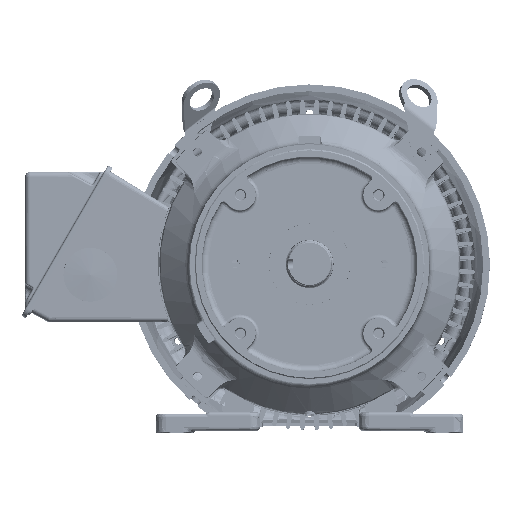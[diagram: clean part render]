
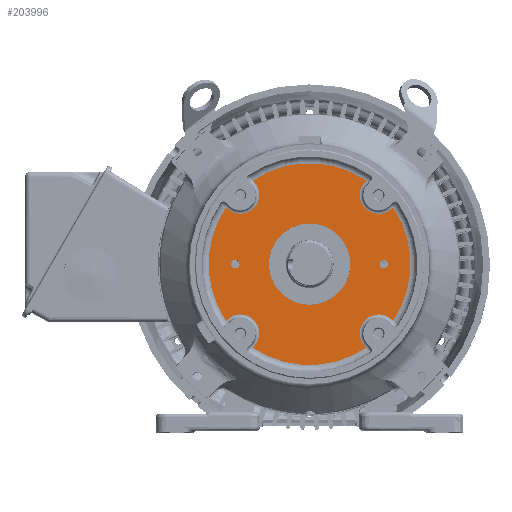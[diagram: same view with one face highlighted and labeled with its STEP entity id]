
A CAD part, top view. The second image highlights one B-rep face of the part: STEP entity #203996.
In plain terms, the highlighted planar face has unit normal (0, 0, 1) as drawn and (0, 0, -1) by its records, which use the part's own axes.
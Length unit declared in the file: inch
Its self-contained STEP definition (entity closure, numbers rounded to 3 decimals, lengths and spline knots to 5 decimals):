
#197152=CARTESIAN_POINT('',(0.,0.,-2.266));
#197153=DIRECTION('',(0.,0.,-1.));
#197154=DIRECTION('',(-0.827,-0.563,0.));
#197155=AXIS2_PLACEMENT_3D('',#197152,#197153,#197154);
#197167=CARTESIAN_POINT('',(0.,0.,-2.266));
#197168=DIRECTION('',(0.,0.,-1.));
#197169=DIRECTION('',(0.563,-0.827,0.));
#197170=AXIS2_PLACEMENT_3D('',#197167,#197168,#197169);
#197172=CARTESIAN_POINT('',(0.,0.,-2.266));
#197173=DIRECTION('',(0.,0.,-1.));
#197174=DIRECTION('',(-0.563,0.827,0.));
#197175=AXIS2_PLACEMENT_3D('',#197172,#197173,#197174);
#197182=CARTESIAN_POINT('',(0.,0.,-2.266));
#197183=DIRECTION('',(0.,0.,-1.));
#197184=DIRECTION('',(0.827,0.563,0.));
#197185=AXIS2_PLACEMENT_3D('',#197182,#197183,#197184);
#197207=CARTESIAN_POINT('',(-3.09494,-2.10574,
-2.266));
#197226=DIRECTION('',(-0.725,-0.688,
0.));
#197227=VECTOR('',#197226,0.07073);
#197228=CARTESIAN_POINT('',(-3.04364,-2.05705,-2.266));
#197229=LINE('',#197228,#197227);
#197240=CARTESIAN_POINT('',(-2.56326,-2.56326,-2.266));
#197241=DIRECTION('',(0.,0.,1.));
#197242=DIRECTION('',(0.725,-0.688,0.));
#197243=AXIS2_PLACEMENT_3D('',#197240,#197241,#197242);
#197254=DIRECTION('',(0.688,0.725,0.));
#197255=VECTOR('',#197254,0.07073);
#197256=CARTESIAN_POINT('',(-2.10574,-3.09494,
-2.266));
#197257=LINE('',#197256,#197255);
#197258=CARTESIAN_POINT('',(2.75,0.,-2.266));
#197259=DIRECTION('',(0.,0.,1.));
#197260=DIRECTION('',(1.,0.,0.));
#197261=AXIS2_PLACEMENT_3D('',#197258,#197259,#197260);
#197263=CARTESIAN_POINT('',(2.75,0.,-2.266));
#197264=DIRECTION('',(0.,0.,1.));
#197265=DIRECTION('',(-1.,0.,0.));
#197266=AXIS2_PLACEMENT_3D('',#197263,#197264,#197265);
#197268=CARTESIAN_POINT('',(-2.75,0.,-2.266));
#197269=DIRECTION('',(0.,0.,1.));
#197270=DIRECTION('',(-1.,0.,0.));
#197271=AXIS2_PLACEMENT_3D('',#197268,#197269,#197270);
#197273=CARTESIAN_POINT('',(-2.75,0.,-2.266));
#197274=DIRECTION('',(0.,0.,1.));
#197275=DIRECTION('',(1.,0.,0.));
#197276=AXIS2_PLACEMENT_3D('',#197273,#197274,#197275);
#197286=CARTESIAN_POINT('',(0.,0.,-2.266));
#197287=DIRECTION('',(0.,0.,-1.));
#197288=DIRECTION('',(0.,1.,0.));
#197289=AXIS2_PLACEMENT_3D('',#197286,#197287,#197288);
#197291=CARTESIAN_POINT('',(0.,0.,-2.266));
#197292=DIRECTION('',(0.,0.,1.));
#197293=DIRECTION('',(0.,1.,0.));
#197294=AXIS2_PLACEMENT_3D('',#197291,#197292,#197293);
#199925=DIRECTION('',(0.688,-0.725,0.));
#199926=VECTOR('',#199925,0.07073);
#199927=CARTESIAN_POINT('',(2.05705,-3.04364,-2.266));
#199928=LINE('',#199927,#199926);
#199989=CARTESIAN_POINT('',(3.09494,-2.10574,
-2.266));
#200000=DIRECTION('',(-0.725,0.688,0.));
#200001=VECTOR('',#200000,0.07073);
#200002=CARTESIAN_POINT('',(3.09494,-2.10574,
-2.266));
#200003=LINE('',#200002,#200001);
#200014=CARTESIAN_POINT('',(2.56326,-2.56326,-2.266));
#200015=DIRECTION('',(0.,0.,1.));
#200016=DIRECTION('',(0.688,0.725,0.));
#200017=AXIS2_PLACEMENT_3D('',#200014,#200015,#200016);
#200079=DIRECTION('',(0.725,0.688,0.));
#200080=VECTOR('',#200079,0.07073);
#200081=CARTESIAN_POINT('',(3.04364,2.05705,-2.266));
#200082=LINE('',#200081,#200080);
#200143=CARTESIAN_POINT('',(2.10574,3.09494,
-2.266));
#200154=DIRECTION('',(-0.688,-0.725,0.));
#200155=VECTOR('',#200154,0.07073);
#200156=CARTESIAN_POINT('',(2.10574,3.09494,
-2.266));
#200157=LINE('',#200156,#200155);
#200168=CARTESIAN_POINT('',(2.56326,2.56326,-2.266));
#200169=DIRECTION('',(0.,0.,1.));
#200170=DIRECTION('',(-0.725,0.688,0.));
#200171=AXIS2_PLACEMENT_3D('',#200168,#200169,#200170);
#200233=DIRECTION('',(-0.688,0.725,0.));
#200234=VECTOR('',#200233,0.07073);
#200235=CARTESIAN_POINT('',(-2.05705,3.04364,-2.266));
#200236=LINE('',#200235,#200234);
#200306=CARTESIAN_POINT('',(-2.56326,2.56326,-2.266));
#200307=DIRECTION('',(0.,0.,1.));
#200308=DIRECTION('',(-0.688,-0.725,0.));
#200309=AXIS2_PLACEMENT_3D('',#200306,#200307,#200308);
#200320=DIRECTION('',(0.725,-0.688,0.));
#200321=VECTOR('',#200320,0.07073);
#200322=CARTESIAN_POINT('',(-3.09494,2.10574,
-2.266));
#200323=LINE('',#200322,#200321);
#200347=CARTESIAN_POINT('',(-3.09494,2.10574,
-2.266));
#201870=VERTEX_POINT('',#197207);
#201874=CARTESIAN_POINT('',(-3.04364,-2.05705,-2.266));
#201875=VERTEX_POINT('',#201874);
#201878=CARTESIAN_POINT('',(-2.05705,-3.04364,-2.266));
#201879=VERTEX_POINT('',#201878);
#201882=CARTESIAN_POINT('',(-2.10574,-3.09494,
-2.266));
#201883=VERTEX_POINT('',#201882);
#201889=VERTEX_POINT('',#200347);
#201892=CARTESIAN_POINT('',(-3.04364,2.05705,-2.266));
#201893=VERTEX_POINT('',#201892);
#201896=CARTESIAN_POINT('',(-2.05705,3.04364,-2.266));
#201897=VERTEX_POINT('',#201896);
#201900=CARTESIAN_POINT('',(-2.10574,3.09494,
-2.266));
#201901=VERTEX_POINT('',#201900);
#201907=VERTEX_POINT('',#200143);
#201910=CARTESIAN_POINT('',(2.05705,3.04364,-2.266));
#201911=VERTEX_POINT('',#201910);
#201914=CARTESIAN_POINT('',(3.04364,2.05705,-2.266));
#201915=VERTEX_POINT('',#201914);
#201918=CARTESIAN_POINT('',(3.09494,2.10574,
-2.266));
#201919=VERTEX_POINT('',#201918);
#201925=VERTEX_POINT('',#199989);
#201928=CARTESIAN_POINT('',(3.04364,-2.05705,-2.266));
#201929=VERTEX_POINT('',#201928);
#201932=CARTESIAN_POINT('',(2.05705,-3.04364,-2.266));
#201933=VERTEX_POINT('',#201932);
#201936=CARTESIAN_POINT('',(2.10574,-3.09494,
-2.266));
#201937=VERTEX_POINT('',#201936);
#202110=CARTESIAN_POINT('',(2.9055,0.,-2.266));
#202111=CARTESIAN_POINT('',(2.5945,0.,-2.266));
#202112=VERTEX_POINT('',#202110);
#202113=VERTEX_POINT('',#202111);
#202114=CARTESIAN_POINT('',(-2.9055,0.,-2.266));
#202115=CARTESIAN_POINT('',(-2.5945,0.,-2.266));
#202116=VERTEX_POINT('',#202114);
#202117=VERTEX_POINT('',#202115);
#202297=CARTESIAN_POINT('',(0.,1.5075,-2.266));
#202299=VERTEX_POINT('',#202297);
#202301=CARTESIAN_POINT('',(0.,-1.5075,-2.266));
#202303=VERTEX_POINT('',#202301);
#203946=CARTESIAN_POINT('',(0.,0.,-2.266));
#203947=DIRECTION('',(0.,0.,1.));
#203948=DIRECTION('',(0.,1.,0.));
#203949=AXIS2_PLACEMENT_3D('',#203946,#203947,#203948);
#203950=PLANE('',#203949);
#203951=ORIENTED_EDGE('',*,*,#203913,.F.);
#203952=ORIENTED_EDGE('',*,*,#203927,.F.);
#203953=ORIENTED_EDGE('',*,*,#203940,.F.);
#203954=ORIENTED_EDGE('',*,*,#203821,.F.);
#203956=ORIENTED_EDGE('',*,*,#203955,.F.);
#203958=ORIENTED_EDGE('',*,*,#203957,.F.);
#203960=ORIENTED_EDGE('',*,*,#203959,.F.);
#203961=ORIENTED_EDGE('',*,*,#203848,.F.);
#203963=ORIENTED_EDGE('',*,*,#203962,.F.);
#203965=ORIENTED_EDGE('',*,*,#203964,.F.);
#203967=ORIENTED_EDGE('',*,*,#203966,.F.);
#203968=ORIENTED_EDGE('',*,*,#203833,.F.);
#203970=ORIENTED_EDGE('',*,*,#203969,.F.);
#203972=ORIENTED_EDGE('',*,*,#203971,.F.);
#203974=ORIENTED_EDGE('',*,*,#203973,.F.);
#203975=ORIENTED_EDGE('',*,*,#203804,.F.);
#203976=EDGE_LOOP('',(#203951,#203952,#203953,#203954,#203956,#203958,#203960,
#203961,#203963,#203965,#203967,#203968,#203970,#203972,#203974,#203975));
#203977=FACE_OUTER_BOUND('',#203976,.F.);
#203979=ORIENTED_EDGE('',*,*,#203978,.F.);
#203981=ORIENTED_EDGE('',*,*,#203980,.F.);
#203982=EDGE_LOOP('',(#203979,#203981));
#203983=FACE_BOUND('',#203982,.F.);
#203985=ORIENTED_EDGE('',*,*,#203984,.F.);
#203987=ORIENTED_EDGE('',*,*,#203986,.F.);
#203988=EDGE_LOOP('',(#203985,#203987));
#203989=FACE_BOUND('',#203988,.F.);
#203991=ORIENTED_EDGE('',*,*,#203990,.T.);
#203993=ORIENTED_EDGE('',*,*,#203992,.F.);
#203994=EDGE_LOOP('',(#203991,#203993));
#203995=FACE_BOUND('',#203994,.F.);
#203996=ADVANCED_FACE('',(#203977,#203983,#203989,#203995),#203950,.F.);
#197156=CIRCLE('',#197155,3.74337);
#197171=CIRCLE('',#197170,3.74337);
#197176=CIRCLE('',#197175,3.74337);
#197186=CIRCLE('',#197185,3.74337);
#197244=CIRCLE('',#197243,0.69786);
#197262=CIRCLE('',#197261,0.1555);
#197267=CIRCLE('',#197266,0.1555);
#197272=CIRCLE('',#197271,0.1555);
#197277=CIRCLE('',#197276,0.1555);
#197290=CIRCLE('',#197289,1.5075);
#197295=CIRCLE('',#197294,1.5075);
#200018=CIRCLE('',#200017,0.69786);
#200172=CIRCLE('',#200171,0.69786);
#200310=CIRCLE('',#200309,0.69786);
#203804=EDGE_CURVE('',#201870,#201889,#197156,.T.);
#203821=EDGE_CURVE('',#201937,#201883,#197171,.T.);
#203833=EDGE_CURVE('',#201901,#201907,#197176,.T.);
#203848=EDGE_CURVE('',#201919,#201925,#197186,.T.);
#203913=EDGE_CURVE('',#201875,#201870,#197229,.T.);
#203927=EDGE_CURVE('',#201879,#201875,#197244,.T.);
#203940=EDGE_CURVE('',#201883,#201879,#197257,.T.);
#203955=EDGE_CURVE('',#201933,#201937,#199928,.T.);
#203957=EDGE_CURVE('',#201929,#201933,#200018,.T.);
#203959=EDGE_CURVE('',#201925,#201929,#200003,.T.);
#203962=EDGE_CURVE('',#201915,#201919,#200082,.T.);
#203964=EDGE_CURVE('',#201911,#201915,#200172,.T.);
#203966=EDGE_CURVE('',#201907,#201911,#200157,.T.);
#203969=EDGE_CURVE('',#201897,#201901,#200236,.T.);
#203971=EDGE_CURVE('',#201893,#201897,#200310,.T.);
#203973=EDGE_CURVE('',#201889,#201893,#200323,.T.);
#203978=EDGE_CURVE('',#202112,#202113,#197262,.T.);
#203980=EDGE_CURVE('',#202113,#202112,#197267,.T.);
#203984=EDGE_CURVE('',#202116,#202117,#197272,.T.);
#203986=EDGE_CURVE('',#202117,#202116,#197277,.T.);
#203990=EDGE_CURVE('',#202299,#202303,#197290,.T.);
#203992=EDGE_CURVE('',#202299,#202303,#197295,.T.);
